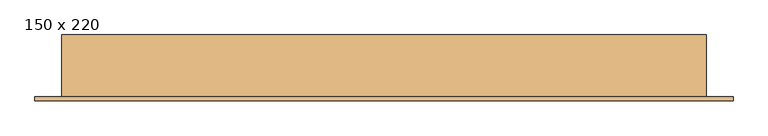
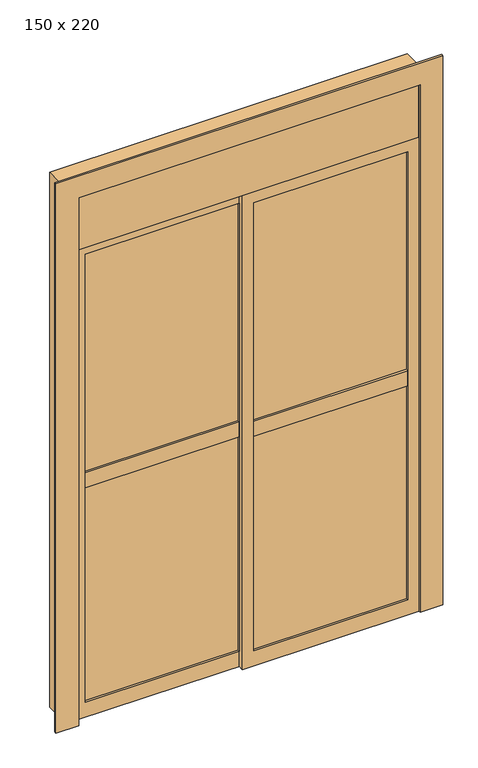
"""IFC4 building model written with IfcOpenShell, lengths in millimetres: door geometry, PORTA DE VIDRO COM ESQUADRIA DE CORRER - 2 FOLHAS + PERSIANA INTEGRADA : 150 x 220."""

from ifc_helpers import new_model, si_unit, frame, origin, origin_with_axes, place, context, project, spatial, polyline, outline, extrude, source, transform, mapped, element, save


def door_150_x_220_79fef6c3(model_context):
    return source(origin(), model_context, "Body", "SweptSolid", [
        extrude(outline(polyline([(37.5955153, -23.0729249), (37.5955153, -48.0729249), (-637.4044847, -48.0729249), (-637.4044847, -23.0729249), (37.5955153, -23.0729249)])), frame((0.0, 0.0, 1065.0), z_axis=(0.0, 0.0, 1.0), x_axis=(1.0, 0.0, 0.0)), (0.0, 0.0, 1.0), 70.0),
        extrude(outline(polyline([(-637.4044847, -32.5729249), (37.5955153, -32.5729249), (37.5955153, -38.5729249), (-637.4044847, -38.5729249), (-637.4044847, -32.5729249)])), frame((0.0, 0.0, 70.0), z_axis=(0.0, 0.0, 1.0), x_axis=(1.0, 0.0, 0.0)), (0.0, 0.0, 1.0), 2080.0),
        extrude(outline(polyline([(2200.0, -687.4044847), (0.0, -687.4044847), (0.0, 87.5955153), (2200.0, 87.5955153), (2200.0, -687.4044847)]), holes=[polyline([(2150.0, -637.4044847), (2150.0, 37.5955153), (70.0, 37.5955153), (70.0, -637.4044847), (2150.0, -637.4044847)])]), frame((0.0, -48.0729249, 0.0), z_axis=(0.0, 1.0, 0.0), x_axis=(0.0, 0.0, 1.0)), (0.0, 0.0, 1.0), 25.0),
        extrude(outline(polyline([(87.5955153, -48.0729249), (762.5955153, -48.0729249), (762.5955153, -73.0729249), (87.5955153, -73.0729249), (87.5955153, -48.0729249)])), frame((0.0, 0.0, 1065.0), z_axis=(0.0, 0.0, 1.0), x_axis=(1.0, 0.0, 0.0)), (0.0, 0.0, 1.0), 70.0),
        extrude(outline(polyline([(762.5955153, -57.5729249), (762.5955153, -63.5729249), (87.5955153, -63.5729249), (87.5955153, -57.5729249), (762.5955153, -57.5729249)])), frame((0.0, 0.0, 70.0), z_axis=(0.0, 0.0, 1.0), x_axis=(1.0, 0.0, 0.0)), (0.0, 0.0, 1.0), 2080.0),
        extrude(outline(polyline([(2200.0, 812.5955153), (2200.0, 37.5955153), (0.0, 37.5955153), (0.0, 812.5955153), (2200.0, 812.5955153)]), holes=[polyline([(2150.0, 762.5955153), (70.0, 762.5955153), (70.0, 87.5955153), (2150.0, 87.5955153), (2150.0, 762.5955153)])]), frame((0.0, -73.0729249, 0.0), z_axis=(0.0, 1.0, 0.0), x_axis=(0.0, 0.0, 1.0)), (0.0, 0.0, 1.0), 25.0),
        extrude(outline(polyline([(2485.0, -722.4044847), (0.0, -722.4044847), (0.0, -687.4044847), (2450.0, -687.4044847), (2450.0, 812.5955153), (0.0, 812.5955153), (0.0, 847.5955153), (2485.0, 847.5955153), (2485.0, -722.4044847)])), frame((0.0, -73.0729249, 0.0), z_axis=(0.0, 1.0, 0.0), x_axis=(0.0, 0.0, 1.0)), (0.0, 0.0, 1.0), 150.0),
        extrude(outline(polyline([(2450.0, -687.4044847), (2450.0, 812.5955153), (0.0, 812.5955153), (0.0, 912.5955153), (2550.0, 912.5955153), (2550.0, -787.4044847), (0.0, -787.4044847), (0.0, -687.4044847), (2450.0, -687.4044847)])), frame((0.0, -83.0729249, 0.0), z_axis=(0.0, 1.0, 0.0), x_axis=(0.0, 0.0, 1.0)), (0.0, 0.0, 1.0), 10.0),
        extrude(outline(polyline([(-687.4044847, 66.9270751), (-687.4044847, 71.9270751), (812.5955153, 71.9270751), (812.5955153, 66.9270751), (-687.4044847, 66.9270751)])), frame((0.0, 0.0, 2200.0), z_axis=(0.0, 0.0, 1.0), x_axis=(1.0, 0.0, 0.0)), (0.0, 0.0, 1.0), 250.0),
        extrude(outline(polyline([(-73.0729249, 2450.0), (-68.0729249, 2450.0), (-68.0729249, 2205.0), (36.9270751, 2205.0), (36.9270751, 2200.0), (-73.0729249, 2200.0), (-73.0729249, 2450.0)])), frame((-687.4044847, 0.0, 0.0), z_axis=(1.0, 0.0, 0.0), x_axis=(0.0, 1.0, 0.0)), (0.0, 0.0, 1.0), 1500.0),
        extrude(outline(polyline([(772.5955153, 66.9270751), (812.5955153, 66.9270751), (812.5955153, 61.9270751), (772.5955153, 61.9270751), (772.5955153, 66.9270751)])), origin_with_axes(), (0.0, 0.0, 1.0), 2450.0),
        extrude(outline(polyline([(772.5955153, 41.9270751), (812.5955153, 41.9270751), (812.5955153, 36.9270751), (772.5955153, 36.9270751), (772.5955153, 41.9270751)])), origin_with_axes(), (0.0, 0.0, 1.0), 2450.0),
        extrude(outline(polyline([(-647.4044847, 66.9270751), (-647.4044847, 61.9270751), (-687.4044847, 61.9270751), (-687.4044847, 66.9270751), (-647.4044847, 66.9270751)])), origin_with_axes(), (0.0, 0.0, 1.0), 2450.0),
        extrude(outline(polyline([(-647.4044847, 41.9270751), (-647.4044847, 36.9270751), (-687.4044847, 36.9270751), (-687.4044847, 41.9270751), (-647.4044847, 41.9270751)])), origin_with_axes(), (0.0, 0.0, 1.0), 2450.0),
        extrude(outline(polyline([(-687.4044847, 47.9270751), (-687.4044847, 55.9270751), (812.5955153, 55.9270751), (812.5955153, 47.9270751), (-687.4044847, 47.9270751)])), frame((0.0, 0.0, 2330.0), z_axis=(0.0, 0.0, 1.0), x_axis=(1.0, 0.0, 0.0)), (0.0, 0.0, 1.0), 120.0),
    ])


if __name__ == "__main__":
    model = new_model("IFC4")
    model_context = context("Model", 3, world=origin())
    ifc_project = project(units=[si_unit("LENGTHUNIT", "METRE", prefix="MILLI")], contexts=[model_context])
    site = spatial("IfcSite", under=ifc_project)
    building = spatial("IfcBuilding", under=site)
    placement = place(None, origin())
    door_150_x_220_shape = door_150_x_220_79fef6c3(model_context)
    element("IfcDoor", 1, ObjectType="PORTA DE VIDRO COM ESQUADRIA DE CORRER - 2 FOLHAS + PERSIANA INTEGRADA : 150 x 220", at=placement, inside=building, context=model_context, shape_type="MappedRepresentation", body=[
        mapped(door_150_x_220_shape, transform((0.0, 0.0, 0.0), x_axis=(1.0, 0.0, 0.0), y_axis=(0.0, 1.0, 0.0), z_axis=(0.0, 0.0, 1.0))),
    ])
    save(model, "model.ifc")
